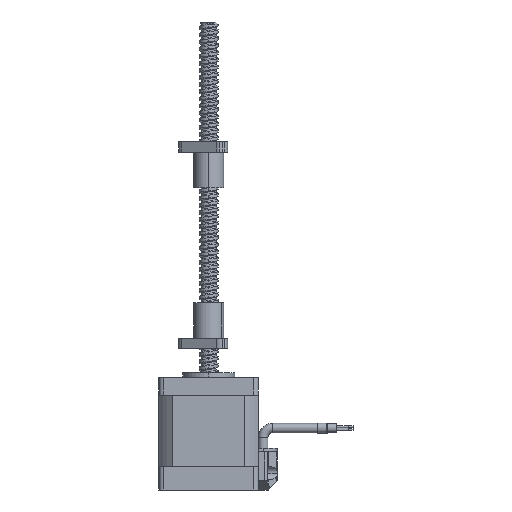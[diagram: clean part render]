
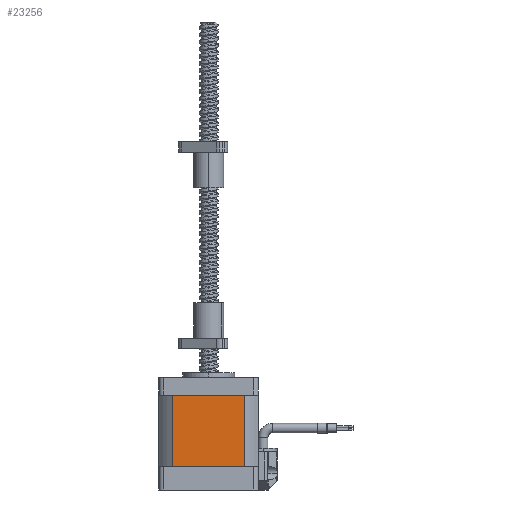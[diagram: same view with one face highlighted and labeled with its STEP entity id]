
A CAD part, left-side view. The second image highlights one B-rep face of the part: STEP entity #23256.
In plain terms, the highlighted planar face has unit normal (-1, 0, 0).
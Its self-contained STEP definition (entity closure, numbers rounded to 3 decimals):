
#651 = CARTESIAN_POINT ( 'NONE',  ( -21., -15.33, 10. ) ) ;
#2155 = ORIENTED_EDGE ( 'NONE', *, *, #13143, .T. ) ;
#2496 = CARTESIAN_POINT ( 'NONE',  ( -21., 15.33, 40. ) ) ;
#2643 = EDGE_CURVE ( 'NONE', #14998, #24161, #17868, .T. ) ;
#3096 = DIRECTION ( 'NONE',  ( 0., -1., 0. ) ) ;
#3503 = VERTEX_POINT ( 'NONE', #12420 ) ;
#5111 = FACE_OUTER_BOUND ( 'NONE', #20835, .T. ) ;
#5231 = DIRECTION ( 'NONE',  ( 0., 1., 0. ) ) ;
#5676 = EDGE_CURVE ( 'NONE', #14998, #3503, #19241, .T. ) ;
#6944 = PLANE ( 'NONE',  #14033 ) ;
#7543 = LINE ( 'NONE', #24344, #15067 ) ;
#7604 = CARTESIAN_POINT ( 'NONE',  ( -21., 15.33, 10. ) ) ;
#9739 = ORIENTED_EDGE ( 'NONE', *, *, #5676, .F. ) ;
#11357 = DIRECTION ( 'NONE',  ( 0., 1., 0. ) ) ;
#11512 = VECTOR ( 'NONE', #15163, 1000. ) ;
#12370 = CARTESIAN_POINT ( 'NONE',  ( -21., -15.33, 40. ) ) ;
#12420 = CARTESIAN_POINT ( 'NONE',  ( -21., 15.33, 40. ) ) ;
#13143 = EDGE_CURVE ( 'NONE', #15509, #3503, #7543, .T. ) ;
#13304 = LINE ( 'NONE', #14675, #11512 ) ;
#13795 = EDGE_CURVE ( 'NONE', #15509, #24161, #13304, .T. ) ;
#14033 = AXIS2_PLACEMENT_3D ( 'NONE', #16326, #23613, #5231 ) ;
#14675 = CARTESIAN_POINT ( 'NONE',  ( -21., -15.33, 40. ) ) ;
#14998 = VERTEX_POINT ( 'NONE', #7604 ) ;
#15067 = VECTOR ( 'NONE', #11357, 1000. ) ;
#15163 = DIRECTION ( 'NONE',  ( 0., 0., -1. ) ) ;
#15502 = VECTOR ( 'NONE', #21334, 1000. ) ;
#15509 = VERTEX_POINT ( 'NONE', #12370 ) ;
#15889 = CARTESIAN_POINT ( 'NONE',  ( -21., 19., 10. ) ) ;
#16326 = CARTESIAN_POINT ( 'NONE',  ( -21., 19., 47.6 ) ) ;
#17303 = ORIENTED_EDGE ( 'NONE', *, *, #2643, .T. ) ;
#17868 = LINE ( 'NONE', #15889, #22224 ) ;
#19241 = LINE ( 'NONE', #2496, #15502 ) ;
#20835 = EDGE_LOOP ( 'NONE', ( #20901, #2155, #9739, #17303 ) ) ;
#20901 = ORIENTED_EDGE ( 'NONE', *, *, #13795, .F. ) ;
#21334 = DIRECTION ( 'NONE',  ( 0., 0., 1. ) ) ;
#22224 = VECTOR ( 'NONE', #3096, 1000. ) ;
#23256 = ADVANCED_FACE ( 'NONE', ( #5111 ), #6944, .F. ) ;
#23613 = DIRECTION ( 'NONE',  ( 1., 0., 0. ) ) ;
#24161 = VERTEX_POINT ( 'NONE', #651 ) ;
#24344 = CARTESIAN_POINT ( 'NONE',  ( -21., 19., 40. ) ) ;
